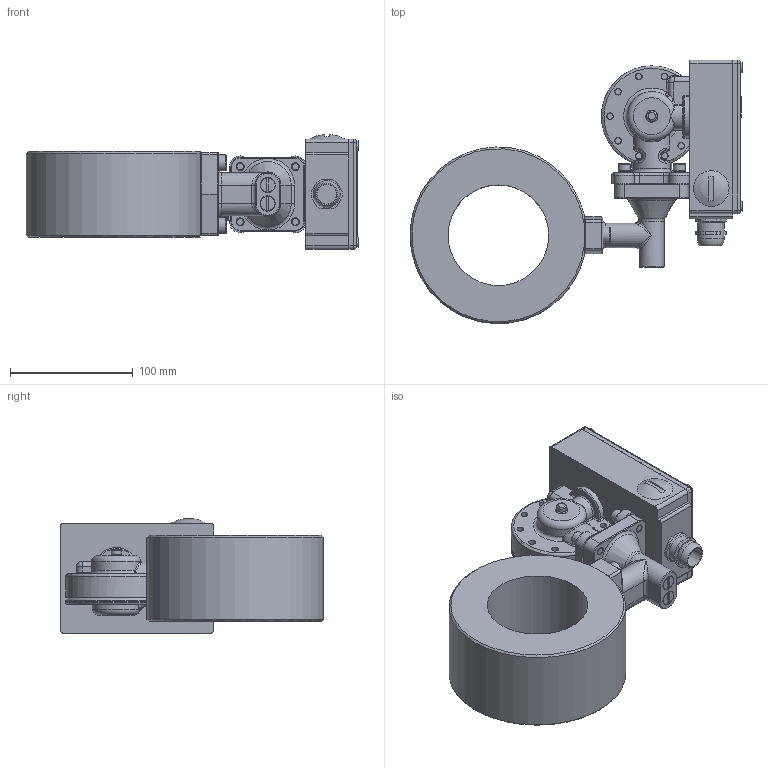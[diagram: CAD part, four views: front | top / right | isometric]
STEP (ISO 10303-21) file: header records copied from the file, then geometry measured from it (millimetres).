
FILE_DESCRIPTION(/* description */ ('Alibre Inc.'),/* implementation_level */ '2;1');
FILE_NAME(/* name */ 'export0',/* time_stamp */ '2012-10-15T13:32:13+02:00',/* author */ (''),/* organization */ (''),/* preprocessor_version */ 'ST-DEVELOPER v14',/* originating_system */ 'Alibre',/* authorisation */ '');
FILE_SCHEMA (('CONFIG_CONTROL_DESIGN'));
Length unit declared in the file: centimetre
Products named in the file (13): ID_1; ID_2; ID_3; ID_4; ID_5; ID_6; ID_7; ID_8
Bounding box: 270.5 x 214.52 x 93.66 mm (x, y, z)
Volume: 1159083.2 mm3; surface area: 242131.3 mm2
Topology: 29 solids, 29 shells, 1094 faces, 2578 edges, 1625 vertices
Faces by surface type: plane 540, cylinder 251, bspline 168, torus 65, cone 65, sphere 5
Full cylindrical faces by diameter (mm): 5 x23, 5.5 x18, 6 x12, 6.038 x2, 6.5 x4, 7.5 x1, 8 x18, 8.3 x9, 8.5 x2, 8.7 x2, 9.6 x4, 10 x4, 11.75 x2, 11.85 x1, 12 x2, 13 x2, 14 x2, 16 x1, 17.966 x1, 22 x2, 22.5 x4, 31 x1, 32 x1, 47 x1, 56 x2, 82 x1
Entity records: 34395 total; most frequent: CARTESIAN_POINT 14007, ORIENTED_EDGE 3926, DIRECTION 3183, EDGE_CURVE 1963, VERTEX_POINT 1311, AXIS2_PLACEMENT_3D 1303, EDGE_LOOP 1144, FACE_BOUND 1144
